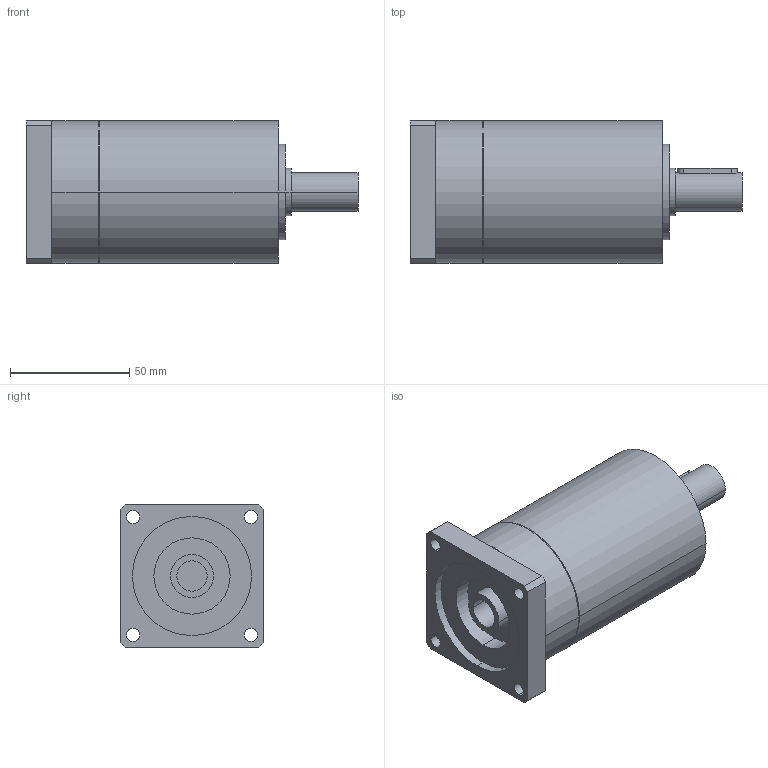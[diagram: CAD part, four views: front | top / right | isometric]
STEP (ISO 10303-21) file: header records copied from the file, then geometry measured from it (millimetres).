
FILE_DESCRIPTION(('CoCreate Modeling STEP Export'),'2;1');
FILE_NAME('GPR75_ig-9-12-16-20-24-30-36_16_B14_12.7_P20.stp','2014-08-25T16:01:53',(''),(''),'CoCreate Modeling STEP processor for AP214 (Solid Model)','CoCreate Modeling 16.00C 25-Feb-2009 (C) Parametric Technology GmbH','');
FILE_SCHEMA(('AUTOMOTIVE_DESIGN { 1 0 10303 214 1 1 1 1 }'));
Length unit declared in the file: millimetre
Products named in the file (2): GPR75_ig-9-12-16-20-24-30-36_16_B14_12.7_P20
Assembly tree (1 placements, depth 2):
  GPR75_ig-9-12-16-20-24-30-36_16_B14_12.7_P20
    GPR75_ig-9-12-16-20-24-30-36_16_B14_12.7_P20
Bounding box: 139.4 x 60 x 60 mm (x, y, z)
Volume: 301445.9 mm3; surface area: 33959.9 mm2
Topology: 1 solids, 1 shells, 70 faces, 186 edges, 130 vertices
Faces by surface type: cylinder 42, plane 22, cone 6
Entity records: 2013 total; most frequent: CARTESIAN_POINT 368, ORIENTED_EDGE 368, DIRECTION 270, EDGE_CURVE 184, VERTEX_POINT 130, AXIS2_PLACEMENT_3D 102, EDGE_LOOP 92, FACE_OUTER_BOUND 70
